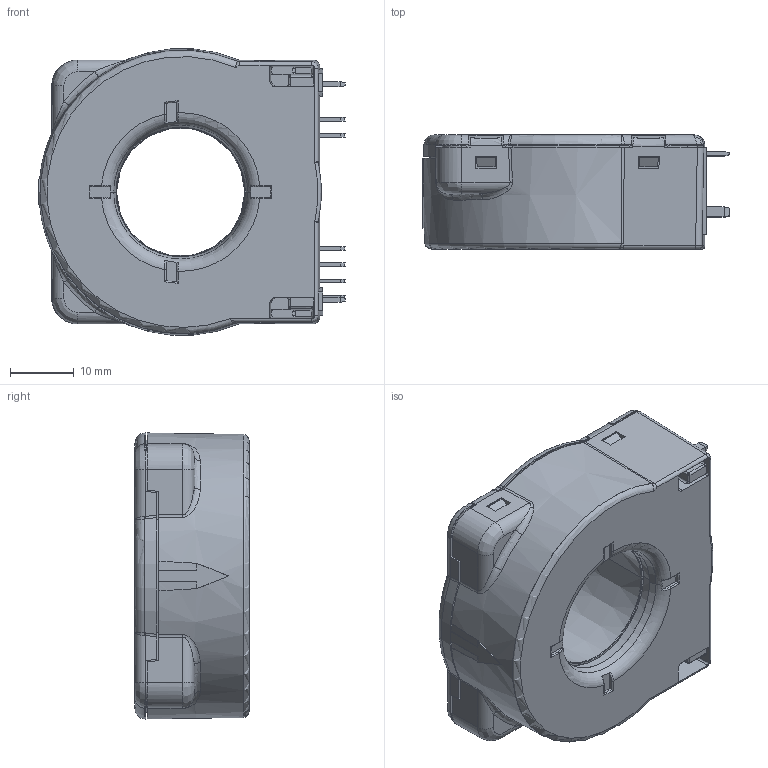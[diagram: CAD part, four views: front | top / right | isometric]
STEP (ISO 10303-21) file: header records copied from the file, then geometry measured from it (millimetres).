
FILE_DESCRIPTION(('Creo Elements/Direct Modeling STEP Export'),'2;1');
FILE_NAME('90.G9.04.010.0_20170428.stp','2017-04-28T15:04:41',(''),(''),'PTC Creo Elements/Direct Modeling STEP processor for AP214 (Solid Model)','PTC Creo Elements/Direct Modeling 19.0B 21-Mar-2015 (C) Parametric Technology GmbH','');
FILE_SCHEMA(('AUTOMOTIVE_DESIGN { 1 0 10303 214 1 1 1 1 }'));
Length unit declared in the file: millimetre
Products named in the file (1): 90.G9.04.010.0_20170428
Bounding box: 48.06 x 17.9 x 44.87 mm (x, y, z)
Volume: 24733.8 mm3; surface area: 9522.3 mm2
Topology: 1 solids, 3 shells, 756 faces, 2172 edges, 1412 vertices
Faces by surface type: plane 459, cylinder 131, bspline 105, cone 44, torus 13, extrusion 4
Entity records: 39538 total; most frequent: CARTESIAN_POINT 19900, ORIENTED_EDGE 4326, DIRECTION 3201, EDGE_CURVE 2163, VERTEX_POINT 1412, VECTOR 1333, LINE 1329, AXIS2_PLACEMENT_3D 934
